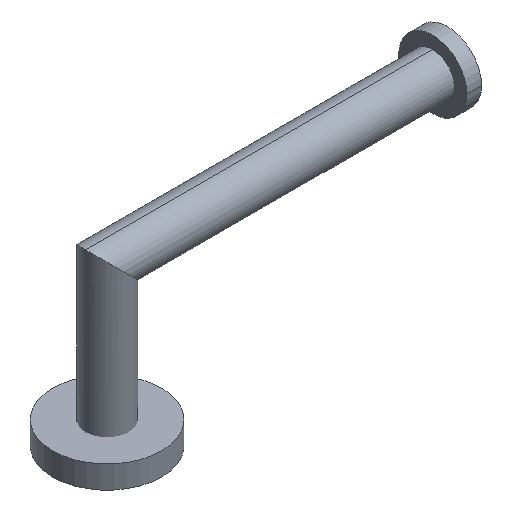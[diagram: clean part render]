
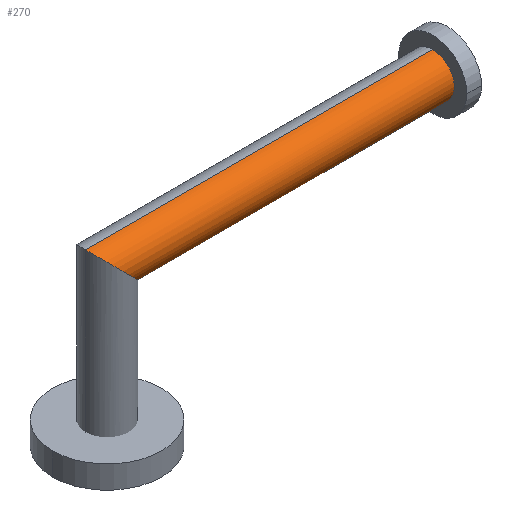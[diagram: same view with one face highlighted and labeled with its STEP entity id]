
A CAD part, isometric view. The second image highlights one B-rep face of the part: STEP entity #270.
In plain terms, the highlighted cylindrical face has radius 9.5 mm (diameter 19 mm), a partial arc.
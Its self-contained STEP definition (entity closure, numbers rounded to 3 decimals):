
#182 = VERTEX_POINT('',#183);
#183 = CARTESIAN_POINT('',(9.5,0.,
    60.5));
#189 = EDGE_CURVE('',#182,#190,#192,.T.);
#190 = VERTEX_POINT('',#191);
#191 = CARTESIAN_POINT('',(0.,-9.5,
    70.));
#192 = ELLIPSE('',#193,13.435,9.5);
#193 = AXIS2_PLACEMENT_3D('',#194,#195,#196);
#194 = CARTESIAN_POINT('',(0.,0.,
    70.));
#195 = DIRECTION('',(-0.707,0.,-0.707)
  );
#196 = DIRECTION('',(-0.707,0.,0.707)
  );
#198 = EDGE_CURVE('',#190,#199,#201,.T.);
#199 = VERTEX_POINT('',#200);
#200 = CARTESIAN_POINT('',(-9.5,0.,
    79.5));
#201 = ELLIPSE('',#202,13.435,9.5);
#202 = AXIS2_PLACEMENT_3D('',#203,#204,#205);
#203 = CARTESIAN_POINT('',(0.,0.,
    70.));
#204 = DIRECTION('',(-0.707,0.,-0.707)
  );
#205 = DIRECTION('',(-0.707,0.,0.707)
  );
#249 = VERTEX_POINT('',#250);
#250 = CARTESIAN_POINT('',(143.5,0.,
    60.5));
#251 = VERTEX_POINT('',#252);
#252 = CARTESIAN_POINT('',(143.5,0.,
    79.5));
#259 = EDGE_CURVE('',#251,#249,#260,.T.);
#260 = CIRCLE('',#261,9.5);
#261 = AXIS2_PLACEMENT_3D('',#262,#263,#264);
#262 = CARTESIAN_POINT('',(143.5,0.,
    70.));
#263 = DIRECTION('',(1.,0.,0.));
#264 = DIRECTION('',(0.,0.,1.));
#270 = ADVANCED_FACE('',(#271),#288,.T.);
#271 = FACE_BOUND('',#272,.T.);
#272 = EDGE_LOOP('',(#273,#274,#280,#281,#287));
#273 = ORIENTED_EDGE('',*,*,#189,.F.);
#274 = ORIENTED_EDGE('',*,*,#275,.T.);
#275 = EDGE_CURVE('',#182,#249,#276,.T.);
#276 = LINE('',#277,#278);
#277 = CARTESIAN_POINT('',(9.5,0.,
    60.5));
#278 = VECTOR('',#279,1.);
#279 = DIRECTION('',(1.,0.,0.));
#280 = ORIENTED_EDGE('',*,*,#259,.F.);
#281 = ORIENTED_EDGE('',*,*,#282,.T.);
#282 = EDGE_CURVE('',#251,#199,#283,.T.);
#283 = LINE('',#284,#285);
#284 = CARTESIAN_POINT('',(-9.5,0.,
    79.5));
#285 = VECTOR('',#286,1.);
#286 = DIRECTION('',(-1.,0.,0.));
#287 = ORIENTED_EDGE('',*,*,#198,.F.);
#288 = CYLINDRICAL_SURFACE('',#289,9.5);
#289 = AXIS2_PLACEMENT_3D('',#290,#291,#292);
#290 = CARTESIAN_POINT('',(0.,0.,
    70.));
#291 = DIRECTION('',(-1.,0.,0.));
#292 = DIRECTION('',(0.,0.,1.));
